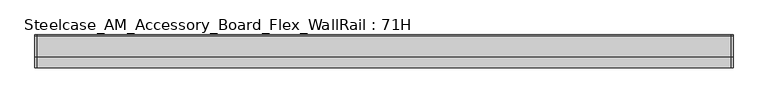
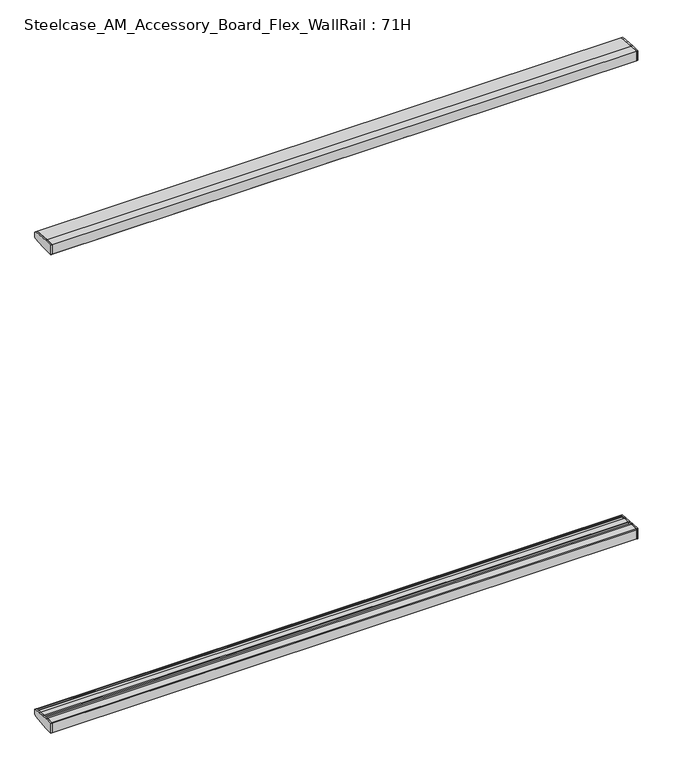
"""IFC4 building model written with IfcOpenShell, lengths in millimetres: furniture geometry, Steelcase_AM_Accessory_Board_Flex_WallRail : 71H."""

from ifc_helpers import new_model, si_unit, frame, origin, place, context, project, spatial, polyline, outline, extrude, source, transform, mapped, element, save


def steelcase_am_accessory_board_flex_wallrail_71h_04e6bd68(model_context):
    return source(origin(), model_context, "Body", "SweptSolid", [
        extrude(outline(polyline([(29.748384, 311.8124036), (50.3978144, 310.4594831), (73.1435844, 308.3782149), (98.0172056, 306.3145802), (99.9999601, 304.160545), (99.9999601, 284.9364269), (95.5653908, 280.1038739), (31.7483991, 274.6124455), (0.0, 274.6124455), (0.0, 309.8107755), (2.0015978, 311.8124036), (29.748384, 311.8124036)])), frame((2113.1857422, 0.0, 0.0), z_axis=(1.0, 0.0, 0.0), x_axis=(0.0, 1.0, 0.0)), (0.0, 0.0, 1.0), 4.9857422),
        extrude(outline(polyline([(29.748384, 2096.400042), (2.0015978, 2096.400042), (0.0, 2098.40167), (0.0, 2133.6), (31.7483991, 2133.6), (95.5653908, 2128.1085716), (99.9999601, 2123.2760186), (99.9999601, 2104.0519005), (98.0172056, 2101.8978653), (73.1435844, 2099.8342307), (50.3978144, 2097.7529625), (29.748384, 2096.400042)])), frame((2113.1857422, 0.0, 0.0), z_axis=(1.0, 0.0, 0.0), x_axis=(0.0, 1.0, 0.0)), (0.0, 0.0, 1.0), 4.9857422),
        extrude(outline(polyline([(29.748384, 311.8124036), (50.3978144, 310.4594831), (73.1435844, 308.3782149), (98.0172056, 306.3145802), (99.9999601, 304.160545), (99.9999601, 284.9364269), (95.5653908, 280.1038739), (31.7483991, 274.6124455), (0.0, 274.6124455), (0.0, 309.8107755), (2.0015978, 311.8124036), (29.748384, 311.8124036)])), frame((0.0, 0.0, 0.0), z_axis=(1.0, 0.0, 0.0), x_axis=(0.0, 1.0, 0.0)), (0.0, 0.0, 1.0), 4.9857422),
        extrude(outline(polyline([(29.748384, 2096.400042), (2.0015978, 2096.400042), (0.0, 2098.40167), (0.0, 2133.6), (31.7483991, 2133.6), (95.5653908, 2128.1085716), (99.9999601, 2123.2760186), (99.9999601, 2104.0519005), (98.0172056, 2101.8978653), (73.1435844, 2099.8342307), (50.3978144, 2097.7529625), (29.748384, 2096.400042)])), frame((0.0, 0.0, 0.0), z_axis=(1.0, 0.0, 0.0), x_axis=(0.0, 1.0, 0.0)), (0.0, 0.0, 1.0), 4.9857422),
        extrude(outline(polyline([(0.0, 309.8107755), (2.0015978, 311.8124036), (29.748384, 311.8124036), (31.7499758, 309.8107815), (31.7499758, 302.4062228), (48.4030258, 302.4062228), (48.4030258, 308.4293275), (50.3978144, 310.4594831), (73.1435844, 308.3782149), (75.1383233, 306.2110981), (75.1383227, 302.4062228), (91.9999735, 302.4062228), (91.9999743, 304.8242642), (93.9826847, 306.6493034), (98.0172056, 306.3145802), (99.9999598, 304.160545), (99.9999606, 284.9364278), (95.5653908, 280.1038739), (31.7483991, 274.6124455), (0.0, 274.6124455), (0.0, 309.8107755)])), frame((4.9857422, 0.0, 0.0), z_axis=(1.0, 0.0, 0.0), x_axis=(0.0, 1.0, 0.0)), (0.0, 0.0, 1.0), 2108.2),
        extrude(outline(polyline([(0.0, 2098.40167), (0.0, 2133.6), (31.7483991, 2133.6), (95.5653908, 2128.1085716), (99.9999601, 2123.2760183), (99.9999601, 2104.0519008), (98.0172056, 2101.8978653), (93.9826847, 2101.5631421), (91.9999743, 2103.3881813), (91.9999735, 2105.8062228), (75.1383227, 2105.8062228), (75.1383233, 2102.0013474), (73.1435844, 2099.8342307), (50.3978144, 2097.7529625), (48.4030258, 2099.783118), (48.4030258, 2105.8062228), (31.7499758, 2105.8062228), (31.7499758, 2098.401664), (29.748384, 2096.400042), (2.0015978, 2096.400042), (0.0, 2098.40167)])), frame((4.9857422, 0.0, 0.0), z_axis=(1.0, 0.0, 0.0), x_axis=(0.0, 1.0, 0.0)), (0.0, 0.0, 1.0), 2108.2),
    ])


if __name__ == "__main__":
    model = new_model("IFC4")
    model_context = context("Model", 3, world=origin())
    ifc_project = project(units=[si_unit("LENGTHUNIT", "METRE", prefix="MILLI")], contexts=[model_context])
    site = spatial("IfcSite", under=ifc_project)
    building = spatial("IfcBuilding", under=site)
    placement = place(None, origin())
    steelcase_am_accessory_board_flex_wallrail_71h_shape = steelcase_am_accessory_board_flex_wallrail_71h_04e6bd68(model_context)
    element("IfcFurniture", 1, ObjectType="Steelcase_AM_Accessory_Board_Flex_WallRail : 71H", at=placement, inside=building, context=model_context, shape_type="MappedRepresentation", body=[
        mapped(steelcase_am_accessory_board_flex_wallrail_71h_shape, transform((0.0, 0.0, 0.0), x_axis=(1.0, 0.0, 0.0), y_axis=(0.0, 1.0, 0.0), z_axis=(0.0, 0.0, 1.0))),
    ])
    save(model, "model.ifc")
